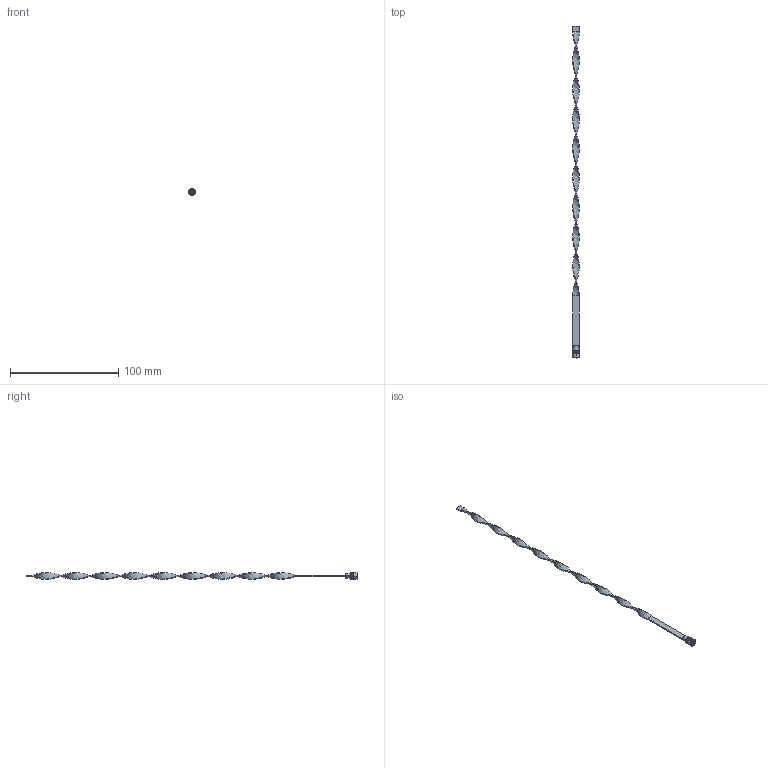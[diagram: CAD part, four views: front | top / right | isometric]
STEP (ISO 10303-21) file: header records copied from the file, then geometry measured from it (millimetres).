
FILE_DESCRIPTION (( 'STEP AP203' ), '1' );
FILE_NAME ('RLS6Fx300.STEP', '2015-12-04T14:20:43', ( 'Balzi' ), ( '' ), 'SwSTEP 2.0', 'SolidWorks 2015', '' );
FILE_SCHEMA (( 'CONFIG_CONTROL_DESIGN' ));
Length unit declared in the file: millimetre
Products named in the file (1): RLS6Fx300
Bounding box: 6.8 x 307 x 6.8 mm (x, y, z)
Volume: 1939.7 mm3; surface area: 4499.5 mm2
Topology: 1 solids, 1 shells, 70 faces, 166 edges, 104 vertices
Faces by surface type: plane 32, cylinder 15, cone 12, torus 7, bspline 4
Entity records: 5116 total; most frequent: CARTESIAN_POINT 3451, ORIENTED_EDGE 332, DIRECTION 329, EDGE_CURVE 166, AXIS2_PLACEMENT_3D 122, VERTEX_POINT 104, LINE 85, VECTOR 85
